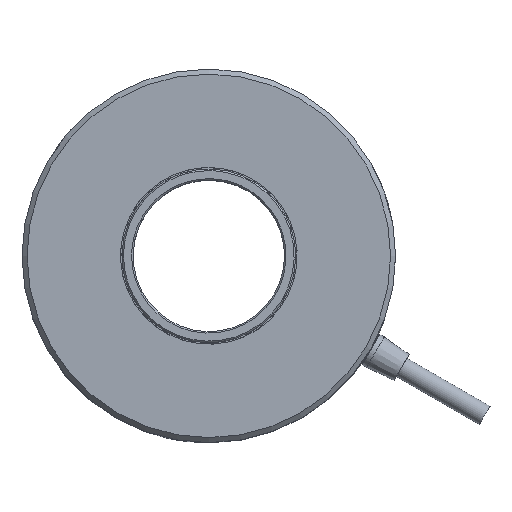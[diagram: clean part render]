
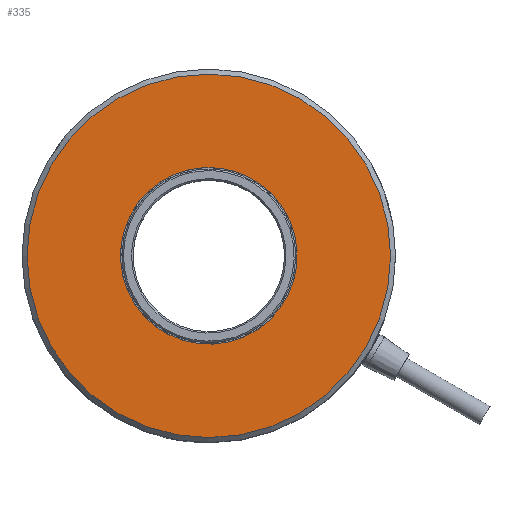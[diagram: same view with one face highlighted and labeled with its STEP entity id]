
A CAD part, top view. The second image highlights one B-rep face of the part: STEP entity #335.
In plain terms, the highlighted planar face has unit normal (0, 0, 1).
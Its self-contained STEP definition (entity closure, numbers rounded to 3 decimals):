
#335=ADVANCED_FACE('',(#727,#728),#729,.F.);
#727=FACE_OUTER_BOUND('',#1168,.T.);
#728=FACE_BOUND('',#1169,.T.);
#729=PLANE('',#1170);
#1168=EDGE_LOOP('',(#1914));
#1169=EDGE_LOOP('',(#1915));
#1170=AXIS2_PLACEMENT_3D('',#1916,#1917,#1918);
#1914=ORIENTED_EDGE('',*,*,#2461,.T.);
#1915=ORIENTED_EDGE('',*,*,#2459,.F.);
#1916=CARTESIAN_POINT('',(-14.5,-25.115,30.));
#1917=DIRECTION('',(0.,0.,-1.0));
#1918=DIRECTION('',(0.5,0.866,0.));
#2459=EDGE_CURVE('',#2917,#2917,#2918,.T.);
#2461=EDGE_CURVE('',#2920,#2920,#2921,.F.);
#2917=VERTEX_POINT('',#3708);
#2918=CIRCLE('',#3709,17.5);
#2920=VERTEX_POINT('',#3711);
#2921=CIRCLE('',#3712,36.0);
#3708=CARTESIAN_POINT('',(11.98,-12.757,30.0));
#3709=AXIS2_PLACEMENT_3D('',#4362,#4363,#4364);
#3711=CARTESIAN_POINT('',(18.,31.177,30.));
#3712=AXIS2_PLACEMENT_3D('',#4365,#4366,#4367);
#4362=CARTESIAN_POINT('',(0.,0.,30.0));
#4363=DIRECTION('',(0.,0.,1.0));
#4364=DIRECTION('',(0.685,-0.729,0.));
#4365=CARTESIAN_POINT('',(0.,0.,30.0));
#4366=DIRECTION('',(0.,0.,-1.0));
#4367=DIRECTION('',(0.5,0.866,0.));
